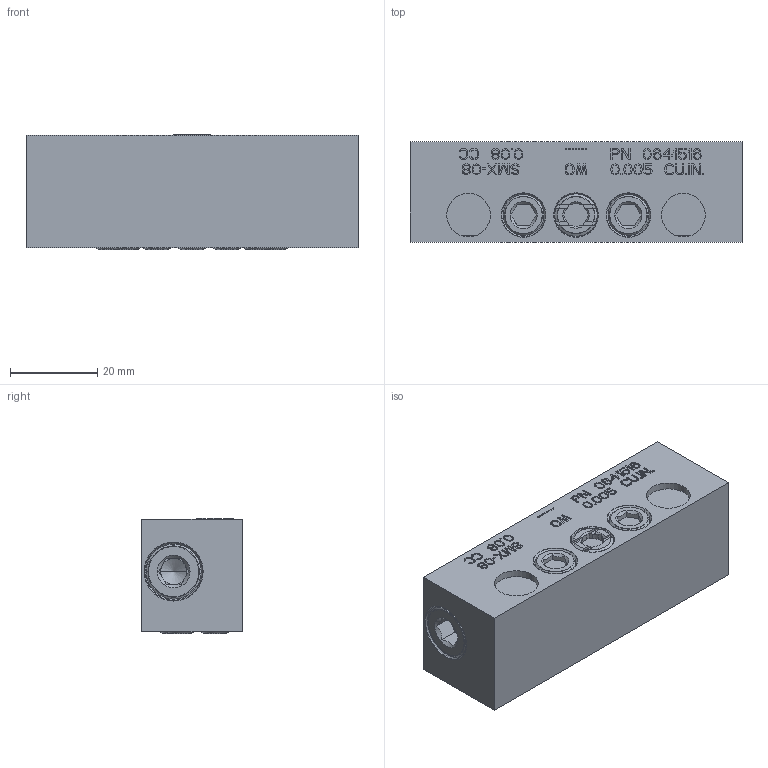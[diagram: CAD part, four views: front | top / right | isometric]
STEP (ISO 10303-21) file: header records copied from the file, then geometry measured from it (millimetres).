
FILE_DESCRIPTION((''),'2;1');
FILE_NAME('0641516_SMX_08','2023-07-21T08:53:02',('pietro.masciave'),(''),'CREO PARAMETRIC BY PTC INC, 2022281','CREO PARAMETRIC BY PTC INC, 2022281','');
FILE_SCHEMA(('CONFIG_CONTROL_DESIGN'));
Length unit declared in the file: millimetre
Products named in the file (1): 0641516_SMX_08
Bounding box: 76 x 23 x 26.33 mm (x, y, z)
Volume: 44003.5 mm3; surface area: 12676.6 mm2
Topology: 1 solids, 14 shells, 1392 faces, 3851 edges, 2559 vertices
Faces by surface type: plane 1220, cylinder 106, cone 44, torus 22
Entity records: 44137 total; most frequent: CARTESIAN_POINT 8316, ORIENTED_EDGE 7654, DIRECTION 6914, EDGE_CURVE 3847, VECTOR 3416, LINE 3416, VERTEX_POINT 2559, AXIS2_PLACEMENT_3D 1749
